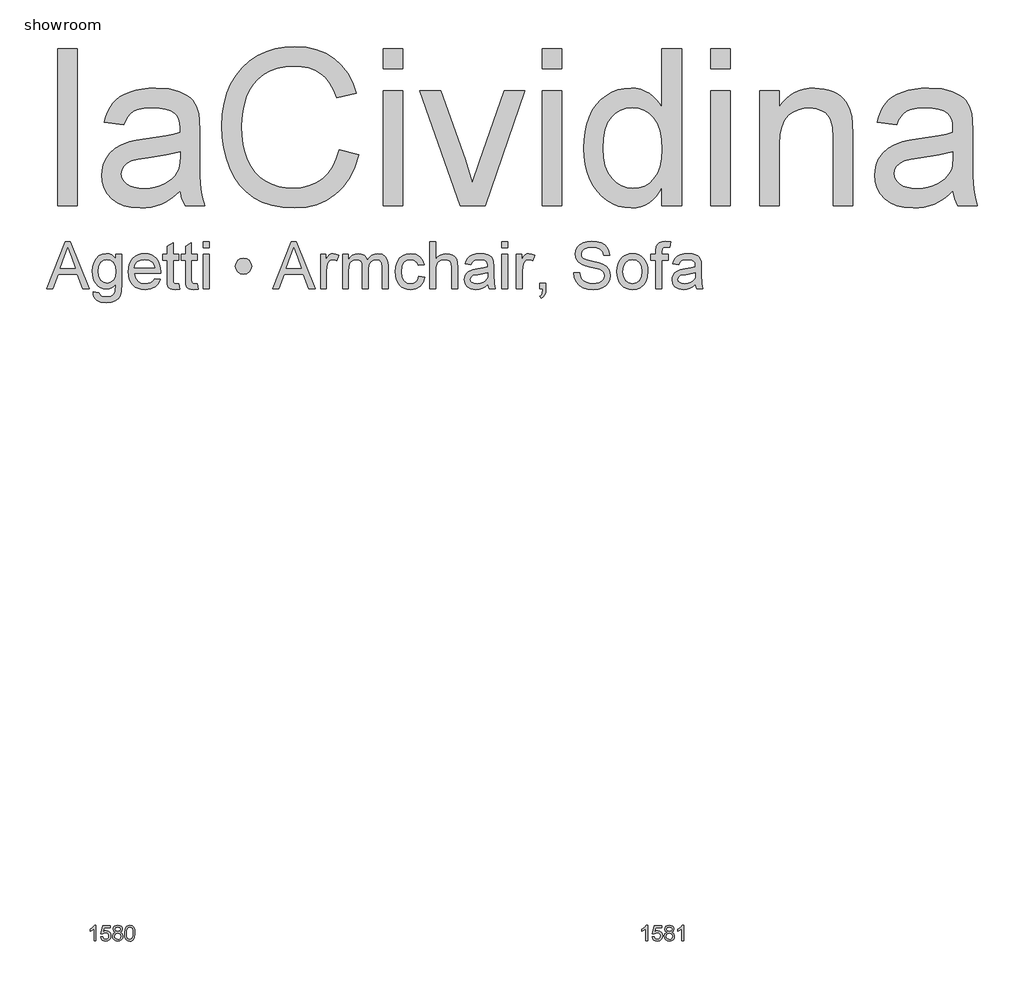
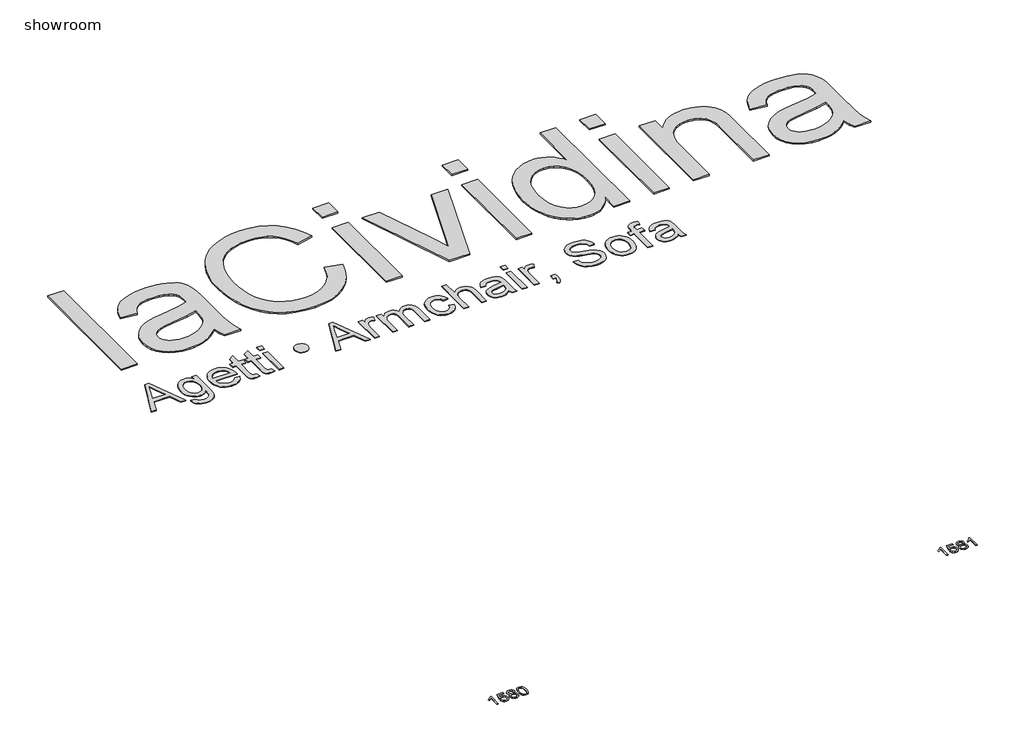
# One storey, incomplete: 4 proxies.
"""IFC4 building model written with IfcOpenShell, lengths in millimetres."""

from ifc_helpers import new_model, si_unit, origin, origin_with_axes, place, context, project, spatial, polyline, outline, extrude, element, save

model = new_model("IFC4")

# Units and contexts
model_context = context("Model", 3, world=origin())
ifc_project = project(units=[si_unit("LENGTHUNIT", "METRE", prefix="MILLI")], contexts=[model_context])

# Site, building, storey
site = spatial("IfcSite", under=ifc_project)
building = spatial("IfcBuilding", under=site)
storey = spatial("IfcBuildingStorey", under=building, Name="showroom", Elevation=0.0)

# Proxies
placement = place(None, origin())
element("IfcBuildingElementProxy", 1, Name="1000mm Arial", ObjectType="1000mm Arial", at=placement, inside=storey, context=model_context, shape_type="SweptSolid", body=[
    extrude(outline(polyline([(-1952.8965336, 4695.1020807), (-1952.8965336, 5699.6651822), (-1827.326146, 5699.6651822), (-1827.326146, 4695.1020807), (-1952.8965336, 4695.1020807)])), origin_with_axes(), (0.0, 0.0, 1.0), 10.0),
    extrude(outline(polyline([(-1168.0816106, 4789.2798714), (-1197.8570596, 4761.3361682), (-1228.0770326, 4737.8377058), (-1258.7415298, 4718.7844841), (-1289.850551, 4704.1765032), (-1321.7566499, 4693.3393128), (-1354.81238, 4685.5984625), (-1389.0177413, 4680.9539523), (-1424.3727339, 4679.4057822), (-1480.283133, 4683.1305874), (-1529.311073, 4694.305003), (-1571.4565541, 4712.929029), (-1606.7195762, 4739.0026654), (-1634.5636447, 4770.8704433), (-1654.4522651, 4806.8768935), (-1666.3854373, 4847.0220163), (-1670.3631613, 4891.3058114), (-1664.3544221, 4943.3611138), (-1656.843498, 4967.5953402), (-1646.3282043, 4990.6339501), (-1618.5224569, 5031.1009696), (-1583.1751285, 5062.7388212), (-1541.6351199, 5086.6511509), (-1495.2513316, 5103.9416046), (-1450.0631599, 5113.5678502), (-1386.6035157, 5122.8262137), (-1258.2126994, 5142.6918415), (-1208.6406006, 5153.9122423), (-1168.8173746, 5165.9910345), (-1168.0816106, 5193.9500661), (-1170.2429173, 5224.3923012), (-1176.7268375, 5249.9907567), (-1187.5333711, 5270.7454326), (-1202.6625181, 5286.6563289), (-1228.8127966, 5302.5365684), (-1260.665246, 5313.8795966), (-1298.2198664, 5320.6854135), (-1341.4766577, 5322.9540191), (-1381.6984225, 5321.4441701), (-1416.27933, 5316.914623), (-1445.2193803, 5309.3653779), (-1468.5185733, 5298.7964348), (-1487.6637655, 5284.3800591), (-1504.1418132, 5265.2885164), (-1517.9527164, 5241.5218066), (-1529.0964752, 5213.0799299), (-1654.6668629, 5228.7762283), (-1645.1095952, 5264.9512912), (-1632.8698547, 5297.4475341), (-1617.9476412, 5326.2649571), (-1600.3429549, 5351.4035601), (-1579.2970391, 5373.3691809), (-1554.0511372, 5392.6676572), (-1524.6052492, 5409.2989891), (-1490.959375, 5423.2631765), (-1453.7956293, 5434.3149647), (-1413.7961265, 5442.2090992), (-1370.9608667, 5446.9455799), (-1325.2898499, 5448.5244068), (-1240.4010795, 5442.9448632), (-1204.5555776, 5435.9704337), (-1173.1093312, 5426.2062324), (-1122.3722727, 5401.0369726), (-1102.8208775, 5386.3140286), (-1087.1475717, 5370.1655418), (-1063.787065, 5331.9977848), (-1048.6425895, 5284.9395463), (-1044.0440646, 5241.5294708), (-1042.5112229, 5175.065457), (-1042.5112229, 5018.8382364), (-1040.9170676, 4882.752555), (-1036.1346017, 4800.6842133), (-1026.6922971, 4746.7588442), (-1011.118626, 4695.1020807), (-1136.6890137, 4695.1020807), (-1156.7998961, 4738.7574108), (-1168.0816106, 4789.2798714)]), holes=[polyline([(-1168.0816106, 5040.4206468), (-1252.4492148, 5019.5126868), (-1370.6619626, 5001.9156646), (-1435.8077326, 4992.2894191), (-1478.6966419, 4981.5595276), (-1506.8089577, 4967.6413254), (-1527.6249472, 4948.450148), (-1540.500817, 4925.4575233), (-1544.7927737, 4900.1349793), (-1542.4551901, 4880.6219052), (-1535.4424396, 4862.7949568), (-1523.7545221, 4846.6541343), (-1507.3914375, 4832.1994375), (-1486.50647, 4820.2892579), (-1461.2529039, 4811.7819868), (-1431.6307391, 4806.6776241), (-1397.6399756, 4804.9761699), (-1362.9364407, 4806.8539009), (-1330.1949431, 4812.487094), (-1299.4154829, 4821.8757491), (-1270.5980599, 4835.0198662), (-1244.6010656, 4850.8311278), (-1222.2828912, 4868.2212162), (-1203.6435368, 4887.1901316), (-1188.6830023, 4907.7378739), (-1179.9917902, 4926.1319736), (-1173.7837815, 4948.450148), (-1168.8173746, 5004.8587206), (-1168.0816106, 5040.4206468)])]), origin_with_axes(), (0.0, 0.0, 1.0), 10.0),
    extrude(outline(polyline([(-147.8222106, 5052.1928707), (-22.2518229, 5019.8192551), (-47.099186, 4941.7286374), (-80.1932372, 4873.4941915), (-121.5339764, 4815.1159174), (-145.296854, 4789.6228448), (-171.1214037, 4766.5938151), (-227.8365446, 4728.4490507), (-290.5604248, 4701.2027904), (-359.2930442, 4684.8550343), (-434.0344029, 4679.4057822), (-510.6075073, 4683.5291262), (-579.6850161, 4695.8991583), (-641.2669293, 4716.5158785), (-695.3532468, 4745.3792867), (-742.6873968, 4782.0601873), (-784.0128076, 4826.1293846), (-819.3294792, 4877.5868787), (-848.6374114, 4936.4326695), (-871.6530288, 5000.1222399), (-888.0927554, 5066.1110728), (-897.9565914, 5134.3991682), (-901.2445368, 5204.986526), (-897.5273958, 5280.7242317), (-886.3759728, 5351.4648737), (-867.7902678, 5417.208452), (-841.7702809, 5477.9549664), (-808.8984918, 5532.7004058), (-769.7573803, 5580.4407589), (-724.3469465, 5621.1760257), (-672.6671904, 5654.9062061), (-616.4732157, 5681.3553887), (-557.5201259, 5700.247662), (-495.8079212, 5711.583026), (-431.3366016, 5715.3614806), (-359.5153062, 5710.4717158), (-293.6567649, 5695.8024212), (-233.7609776, 5671.353597), (-179.8279442, 5637.125243), (-132.746713, 5594.0217359), (-93.4063322, 5542.9474522), (-61.8068016, 5483.902392), (-37.9481214, 5416.8865552), (-163.5185091, 5386.9654863), (-183.2921663, 5436.3459799), (-207.0512119, 5478.5374462), (-234.7956457, 5513.5398852), (-266.5254677, 5541.3532969), (-302.4246191, 5562.5448327), (-342.6770407, 5577.6816439), (-387.2827327, 5586.7637307), (-436.2416949, 5589.7910929), (-492.5736254, 5586.4341697), (-544.0924331, 5576.3634001), (-590.7981181, 5559.5787841), (-632.6906803, 5536.0803216), (-669.2412893, 5506.9256735), (-699.9211149, 5473.1725005), (-724.7301569, 5434.8208025), (-743.6684155, 5391.8705795), (-757.6709239, 5346.2685406), (-767.6727157, 5299.9613944), (-773.6737907, 5252.9491411), (-775.6741491, 5205.2317807), (-773.3059087, 5145.2670154), (-766.2011877, 5089.2263248), (-754.359986, 5037.1097089), (-737.7823036, 4988.9171675), (-716.1998932, 4945.6067268), (-689.3445075, 4908.1364127), (-657.2161466, 4876.5062253), (-619.8148104, 4850.7161646), (-578.9569164, 4830.7049169), (-536.4588817, 4816.4111686), (-492.3207065, 4807.8349196), (-446.5423907, 4804.9761699), (-391.9502355, 4808.8695877), (-341.7266789, 4820.549841), (-295.8717211, 4840.0169299), (-254.3853619, 4867.2708544), (-218.2486201, 4902.1889871), (-188.4425143, 4944.6487007), (-164.9670445, 4994.6499952), (-147.8222106, 5052.1928707)])), origin_with_axes(), (0.0, 0.0, 1.0), 10.0),
    extrude(outline(polyline([(134.7111617, 4695.1020807), (134.7111617, 5432.8281083), (260.2815493, 5432.8281083), (260.2815493, 4695.1020807), (134.7111617, 4695.1020807)])), origin_with_axes(), (0.0, 0.0, 1.0), 10.0),
    extrude(outline(polyline([(134.7111617, 5574.0947945), (134.7111617, 5699.6651822), (260.2815493, 5699.6651822), (260.2815493, 5574.0947945), (134.7111617, 5574.0947945)])), origin_with_axes(), (0.0, 0.0, 1.0), 10.0),
    extrude(outline(polyline([(629.6350725, 4695.1020807), (370.1556386, 5432.8281083), (503.0836662, 5432.8281083), (660.2919054, 4990.8792048), (707.6260555, 4842.2548787), (753.9791869, 4982.5405462), (912.1684448, 5432.8281083), (1045.0964724, 5432.8281083), (788.8053491, 4695.1020807), (629.6350725, 4695.1020807)])), origin_with_axes(), (0.0, 0.0, 1.0), 10.0),
    extrude(outline(polyline([(1154.9705616, 4695.1020807), (1154.9705616, 5432.8281083), (1280.5409493, 5432.8281083), (1280.5409493, 4695.1020807), (1154.9705616, 4695.1020807)])), origin_with_axes(), (0.0, 0.0, 1.0), 10.0),
    extrude(outline(polyline([(1154.9705616, 5574.0947945), (1154.9705616, 5699.6651822), (1280.5409493, 5699.6651822), (1280.5409493, 5574.0947945), (1154.9705616, 5574.0947945)])), origin_with_axes(), (0.0, 0.0, 1.0), 10.0),
    extrude(outline(polyline([(1924.0891862, 4695.1020807), (1924.0891862, 4813.5600831), (1906.2967268, 4782.1176688), (1886.5192374, 4754.8675765), (1864.7567182, 4731.809806), (1841.009169, 4712.9443574), (1815.2765898, 4698.2712308), (1787.5589807, 4687.790426), (1757.8563417, 4681.5019432), (1726.1686728, 4679.4057822), (1684.7206347, 4682.4408087), (1644.9893792, 4691.5458881), (1606.9749064, 4706.7210204), (1570.6772162, 4727.9662056), (1537.2306114, 4754.6453144), (1507.769395, 4786.1222176), (1482.2935668, 4822.3969152), (1460.8031269, 4863.4694071), (1443.7425994, 4908.5579442), (1431.5565083, 4956.8807771), (1424.2448537, 5008.4379059), (1421.8076355, 5063.2293305), (1424.0532485, 5117.0167439), (1430.7900875, 5168.2596401), (1442.0181526, 5216.9580192), (1457.7374436, 5263.1118812), (1477.9402965, 5305.3723254), (1502.6190471, 5342.3904512), (1531.7736952, 5374.1662585), (1565.4042409, 5400.6997474), (1602.322732, 5421.6230359), (1641.3412161, 5436.568242), (1682.4596932, 5445.5353656), (1725.6781635, 5448.5244068), (1757.2853582, 5446.3860927), (1787.1144567, 5439.9711504), (1815.1654588, 5429.2795799), (1841.4383646, 5414.3113812), (1865.6419342, 5395.9249457), (1887.4849277, 5374.9786646), (1906.967345, 5351.4725379), (1924.0891862, 5325.4065657), (1924.0891862, 5699.6651822), (2049.6595739, 5699.6651822), (2049.6595739, 4695.1020807), (1924.0891862, 4695.1020807)]), holes=[polyline([(1547.3780231, 5063.7198398), (1550.9188873, 5002.8277054), (1561.54148, 4950.1362738), (1579.245801, 4905.645545), (1604.0318504, 4869.3555191), (1633.6310226, 4841.1895538), (1665.7747119, 4821.0710072), (1700.4629184, 4808.9998792), (1737.695642, 4804.9761699), (1775.1046424, 4808.8159382), (1809.5859152, 4820.3352432), (1841.1394605, 4839.5340848), (1869.7652782, 4866.4124631), (1893.531988, 4901.1849758), (1910.5082092, 4944.0662209), (1920.693942, 4995.0561983), (1924.0891862, 5054.154908), (1920.6326283, 5118.9481244), (1910.2629545, 5174.5136341), (1892.980165, 5220.851437), (1868.7842596, 5257.9615333), (1839.5299768, 5286.3957458), (1807.0720549, 5306.7058977), (1771.410494, 5318.8919887), (1732.545294, 5322.9540191), (1694.5768065, 5319.0529371), (1659.8886, 5307.3496911), (1628.4806747, 5287.8442812), (1600.3530304, 5260.5367073), (1577.1764647, 5224.8291611), (1560.621775, 5180.1238345), (1550.6889611, 5126.4207274), (1547.3780231, 5063.7198398)])]), origin_with_axes(), (0.0, 0.0, 1.0), 10.0),
    extrude(outline(polyline([(2238.0151554, 4695.1020807), (2238.0151554, 5432.8281083), (2363.5855431, 5432.8281083), (2363.5855431, 4695.1020807), (2238.0151554, 4695.1020807)])), origin_with_axes(), (0.0, 0.0, 1.0), 10.0),
    extrude(outline(polyline([(2238.0151554, 5574.0947945), (2238.0151554, 5699.6651822), (2363.5855431, 5699.6651822), (2363.5855431, 5574.0947945), (2238.0151554, 5574.0947945)])), origin_with_axes(), (0.0, 0.0, 1.0), 10.0),
    extrude(outline(polyline([(2551.9411246, 4695.1020807), (2551.9411246, 5432.8281083), (2677.5115123, 5432.8281083), (2677.5115123, 5329.8211497), (2698.2278672, 5357.6422256), (2721.1361856, 5381.7538247), (2746.2364675, 5402.155947), (2773.5287131, 5418.8485925), (2803.0129221, 5431.8317613), (2834.6890948, 5441.1054532), (2868.5572309, 5446.6696684), (2904.6173307, 5448.5244068), (2966.5134764, 5442.5463244), (2995.5071761, 5435.0737213), (3023.1979605, 5424.6120771), (3048.5358329, 5411.7208789), (3070.4707968, 5396.9596138), (3089.0028523, 5380.3282819), (3104.1319994, 5361.8268833), (3126.9713399, 5319.305856), (3141.7785902, 5269.4885025), (3146.7449972, 5221.8477841), (3148.4004661, 5148.0874441), (3148.4004661, 4695.1020807), (3022.8300785, 4695.1020807), (3022.8300785, 5131.1648723), (3019.2125722, 5196.0960444), (3008.3600533, 5242.2652348), (2999.7378191, 5259.7319654), (2988.3411414, 5275.3439576), (2974.1700204, 5289.1012113), (2957.224456, 5301.0037267), (2917.3399163, 5317.466446), (2871.0174418, 5322.9540191), (2832.8880058, 5319.8730074), (2797.4716996, 5310.6299723), (2764.7685231, 5295.2249137), (2734.7784762, 5273.6578318), (2709.7241795, 5243.4761797), (2691.8282533, 5202.227411), (2681.0906976, 5149.9115256), (2677.5115123, 5086.5285235), (2677.5115123, 4695.1020807), (2551.9411246, 4695.1020807)])), origin_with_axes(), (0.0, 0.0, 1.0), 10.0),
    extrude(outline(polyline([(3791.948703, 4789.2798714), (3762.1732541, 4761.3361682), (3731.953281, 4737.8377058), (3701.2887839, 4718.7844841), (3670.1797626, 4704.1765032), (3638.2736638, 4693.3393128), (3605.2179337, 4685.5984625), (3571.0125723, 4680.9539523), (3535.6575797, 4679.4057822), (3479.7471807, 4683.1305874), (3430.7192406, 4694.305003), (3388.5737595, 4712.929029), (3353.3107375, 4739.0026654), (3325.466669, 4770.8704433), (3305.5780486, 4806.8768935), (3293.6448764, 4847.0220163), (3289.6671523, 4891.3058114), (3295.6758915, 4943.3611138), (3303.1868156, 4967.5953402), (3313.7021093, 4990.6339501), (3341.5078568, 5031.1009696), (3376.8551852, 5062.7388212), (3418.3951938, 5086.6511509), (3464.778982, 5103.9416046), (3509.9671537, 5113.5678502), (3573.4267979, 5122.8262137), (3701.8176142, 5142.6918415), (3751.3897131, 5153.9122423), (3791.2129391, 5165.9910345), (3791.948703, 5193.9500661), (3789.7873963, 5224.3923012), (3783.3034762, 5249.9907567), (3772.4969425, 5270.7454326), (3757.3677955, 5286.6563289), (3731.217517, 5302.5365684), (3699.3650676, 5313.8795966), (3661.8104472, 5320.6854135), (3618.553656, 5322.9540191), (3578.3318912, 5321.4441701), (3543.7509836, 5316.914623), (3514.8109333, 5309.3653779), (3491.5117403, 5298.7964348), (3472.3665481, 5284.3800591), (3455.8885004, 5265.2885164), (3442.0775972, 5241.5218066), (3430.9338384, 5213.0799299), (3305.3634508, 5228.7762283), (3314.9207184, 5264.9512912), (3327.160459, 5297.4475341), (3342.0826724, 5326.2649571), (3359.6873587, 5351.4035601), (3380.7332745, 5373.3691809), (3405.9791764, 5392.6676572), (3435.4250645, 5409.2989891), (3469.0709386, 5423.2631765), (3506.2346843, 5434.3149647), (3546.2341871, 5442.2090992), (3589.0694469, 5446.9455799), (3634.7404638, 5448.5244068), (3719.6292342, 5442.9448632), (3755.4747361, 5435.9704337), (3786.9209824, 5426.2062324), (3837.6580409, 5401.0369726), (3857.2094361, 5386.3140286), (3872.882742, 5370.1655418), (3896.2432487, 5331.9977848), (3911.3877241, 5284.9395463), (3915.9862491, 5241.5294708), (3917.5190907, 5175.065457), (3917.5190907, 5018.8382364), (3919.113246, 4882.752555), (3923.895712, 4800.6842133), (3933.3380165, 4746.7588442), (3948.9116877, 4695.1020807), (3823.3413, 4695.1020807), (3803.2304176, 4738.7574108), (3791.948703, 4789.2798714)]), holes=[polyline([(3791.948703, 5040.4206468), (3707.5810988, 5019.5126868), (3589.368351, 5001.9156646), (3524.2225811, 4992.2894191), (3481.3336718, 4981.5595276), (3453.221356, 4967.6413254), (3432.4053664, 4948.450148), (3419.5294966, 4925.4575233), (3415.23754, 4900.1349793), (3417.5751235, 4880.6219052), (3424.587874, 4862.7949568), (3436.2757916, 4846.6541343), (3452.6388762, 4832.1994375), (3473.5238436, 4820.2892579), (3498.7774097, 4811.7819868), (3528.3995745, 4806.6776241), (3562.3903381, 4804.9761699), (3597.0938729, 4806.8539009), (3629.8353705, 4812.487094), (3660.6148308, 4821.8757491), (3689.4322537, 4835.0198662), (3715.429248, 4850.8311278), (3737.7474224, 4868.2212162), (3756.3867768, 4887.1901316), (3771.3473113, 4907.7378739), (3780.0385234, 4926.1319736), (3786.2465321, 4948.450148), (3791.2129391, 5004.8587206), (3791.948703, 5040.4206468)])]), origin_with_axes(), (0.0, 0.0, 1.0), 10.0),
])
element("IfcBuildingElementProxy", 2, Name="100mm Arial", ObjectType="100mm Arial", at=placement, inside=storey, context=model_context, shape_type="SweptSolid", body=[
    extrude(outline(polyline([(-1708.1109609, -24.8979193), (-1720.6679996, -24.8979193), (-1720.6679996, 53.3873692), (-1732.5628508, 44.9138206), (-1745.7820772, 38.5739876), (-1745.7820772, 50.4443133), (-1727.3757147, 62.1920117), (-1716.2043648, 75.5583908), (-1708.1109609, 75.5583908), (-1708.1109609, -24.8979193)])), origin_with_axes(), (0.0, 0.0, 1.0), 2.0),
    extrude(outline(polyline([(-1678.2879938, 1.7857881), (-1665.730955, 3.3554179), (-1659.4033847, -9.5817656), (-1646.2822602, -13.9105104), (-1637.2814141, -12.4052599), (-1630.5369108, -7.8895084), (-1626.324662, -0.8844221), (-1624.920579, 8.0888329), (-1630.1812916, 23.0003164), (-1636.7878391, 27.1022007), (-1646.0860565, 28.4694954), (-1657.1102536, 26.2867289), (-1664.1613252, 20.6213462), (-1676.718364, 22.1909761), (-1665.730955, 73.988761), (-1617.0724298, 73.988761), (-1617.0724298, 61.4317222), (-1655.577412, 61.4317222), (-1660.9730146, 33.7669962), (-1652.0028252, 39.2116497), (-1642.6034403, 41.0265342), (-1630.8680046, 38.7763227), (-1621.1191317, 32.0256881), (-1614.5524381, 21.7372549), (-1612.3635403, 8.8736478), (-1614.3317089, -3.6833909), (-1620.236215, -14.4255452), (-1631.5424549, -23.4570482), (-1646.3313112, -26.4675492), (-1658.664555, -24.533103), (-1668.49007, -18.7297645), (-1675.2253762, -9.7319841), (-1678.2879938, 1.7857881)])), origin_with_axes(), (0.0, 0.0, 1.0), 2.0),
    extrude(outline(polyline([(-1583.0801334, 30.4315327), (-1594.5212635, 38.230631), (-1598.2368716, 50.3707369), (-1596.2135207, 60.1870548), (-1590.1434678, 68.2988528), (-1580.7072946, 73.7435063), (-1568.5855828, 75.5583908), (-1556.3902947, 73.7005867), (-1546.8314942, 68.1271745), (-1540.6510767, 59.8866178), (-1538.5909375, 50.0273804), (-1542.2574947, 38.1938428), (-1553.3797937, 30.4315327), (-1540.0256773, 20.584558), (-1535.4516778, 4.3364366), (-1537.7202834, -7.6687792), (-1544.5261004, -17.5893304), (-1555.0352627, -24.2479945), (-1568.4139046, -26.4675492), (-1581.7925465, -24.2387974), (-1592.3017088, -17.5525422), (-1599.1075257, -7.5369548), (-1601.3761313, 4.6797931), (-1596.6181909, 21.3080593), (-1583.0801334, 30.4315327)]), holes=[polyline([(-1588.8190926, 5.1212515), (-1586.7221652, -4.3333158), (-1579.3032116, -11.4089128), (-1568.3158027, -13.9105104), (-1559.7686777, -12.5953323), (-1553.3552682, -8.6497979), (-1548.0087166, 4.728844), (-1553.5269465, 18.3650033), (-1560.0875087, 22.4117053), (-1568.7327356, 23.7606059), (-1577.160299, 22.4300994), (-1583.5093291, 18.4385797), (-1588.8190926, 5.1212515)]), polyline([(-1585.6798329, 50.0028549), (-1581.2284607, 40.1436174), (-1568.2667518, 36.3176447), (-1555.5625602, 40.119092), (-1551.1479763, 49.4387692), (-1555.709713, 59.0895402), (-1568.4139046, 63.0013521), (-1581.1548843, 59.1753793), (-1585.6798329, 50.0028549)])]), origin_with_axes(), (0.0, 0.0, 1.0), 2.0),
    extrude(outline(polyline([(-1524.4642689, 24.5208954), (-1520.7731862, 53.4241574), (-1509.8103027, 70.0892118), (-1491.5020421, 75.5583908), (-1476.8358132, 72.3210293), (-1466.7067956, 62.9890893), (-1460.8206837, 48.1266567), (-1458.5398153, 24.5208954), (-1462.1941098, -4.2597394), (-1473.1202051, -20.961582), (-1481.3515647, -25.0910574), (-1491.5020421, -26.4675492), (-1504.5495902, -24.0763162), (-1514.4578786, -16.9026173), (-1521.9626713, 0.0873995), (-1524.4642689, 24.5208954)]), holes=[polyline([(-1511.9072301, 24.5454208), (-1510.4357021, 4.7932234), (-1506.0211182, -6.6387096), (-1499.4482932, -12.0925602), (-1491.5020421, -13.9105104), (-1483.555791, -12.0864288), (-1476.982966, -6.6141842), (-1472.5683821, 4.8238802), (-1471.0968541, 24.5454208), (-1472.5193312, 43.8530942), (-1476.7867623, 55.373932), (-1483.3473246, 61.094497), (-1491.6491949, 63.0013521), (-1499.5096069, 61.3213576), (-1505.8249145, 56.2813743), (-1510.3866512, 44.0431666), (-1511.9072301, 24.5454208)])]), origin_with_axes(), (0.0, 0.0, 1.0), 2.0),
])
element("IfcBuildingElementProxy", 3, Name="100mm Arial", ObjectType="100mm Arial", at=placement, inside=storey, context=model_context, shape_type="SweptSolid", body=[
    extrude(outline(polyline([(1831.8890391, -24.8979193), (1819.3320004, -24.8979193), (1819.3320004, 53.3873692), (1807.4371492, 44.9138206), (1794.2179228, 38.5739876), (1794.2179228, 50.4443133), (1812.6242853, 62.1920117), (1823.7956352, 75.5583908), (1831.8890391, 75.5583908), (1831.8890391, -24.8979193)])), origin_with_axes(), (0.0, 0.0, 1.0), 2.0),
    extrude(outline(polyline([(1861.7120062, 1.7857881), (1874.269045, 3.3554179), (1880.5966153, -9.5817656), (1893.7177398, -13.9105104), (1902.7185859, -12.4052599), (1909.4630892, -7.8895084), (1913.675338, -0.8844221), (1915.079421, 8.0888329), (1909.8187084, 23.0003164), (1903.2121609, 27.1022007), (1893.9139435, 28.4694954), (1882.8897464, 26.2867289), (1875.8386748, 20.6213462), (1863.281636, 22.1909761), (1874.269045, 73.988761), (1922.9275702, 73.988761), (1922.9275702, 61.4317222), (1884.422588, 61.4317222), (1879.0269854, 33.7669962), (1887.9971748, 39.2116497), (1897.3965597, 41.0265342), (1909.1319954, 38.7763227), (1918.8808683, 32.0256881), (1925.4475619, 21.7372549), (1927.6364597, 8.8736478), (1925.6682911, -3.6833909), (1919.763785, -14.4255452), (1908.4575451, -23.4570482), (1893.6686888, -26.4675492), (1881.335445, -24.533103), (1871.50993, -18.7297645), (1864.7746238, -9.7319841), (1861.7120062, 1.7857881)])), origin_with_axes(), (0.0, 0.0, 1.0), 2.0),
    extrude(outline(polyline([(1956.9198666, 30.4315327), (1945.4787365, 38.230631), (1941.7631284, 50.3707369), (1943.7864793, 60.1870548), (1949.8565322, 68.2988528), (1959.2927054, 73.7435063), (1971.4144172, 75.5583908), (1983.6097053, 73.7005867), (1993.1685058, 68.1271745), (1999.3489233, 59.8866178), (2001.4090625, 50.0273804), (1997.7425053, 38.1938428), (1986.6202063, 30.4315327), (1999.9743227, 20.584558), (2004.5483222, 4.3364366), (2002.2797166, -7.6687792), (1995.4738996, -17.5893304), (1984.9647373, -24.2479945), (1971.5860954, -26.4675492), (1958.2074535, -24.2387974), (1947.6982912, -17.5525422), (1940.8924743, -7.5369548), (1938.6238687, 4.6797931), (1943.3818091, 21.3080593), (1956.9198666, 30.4315327)]), holes=[polyline([(1951.1809074, 5.1212515), (1953.2778348, -4.3333158), (1960.6967884, -11.4089128), (1971.6841973, -13.9105104), (1980.2313223, -12.5953323), (1986.6447318, -8.6497979), (1991.9912834, 4.728844), (1986.4730535, 18.3650033), (1979.9124913, 22.4117053), (1971.2672644, 23.7606059), (1962.839701, 22.4300994), (1956.4906709, 18.4385797), (1951.1809074, 5.1212515)]), polyline([(1954.3201671, 50.0028549), (1958.7715393, 40.1436174), (1971.7332482, 36.3176447), (1984.4374398, 40.119092), (1988.8520237, 49.4387692), (1984.290287, 59.0895402), (1971.5860954, 63.0013521), (1958.8451157, 59.1753793), (1954.3201671, 50.0028549)])]), origin_with_axes(), (0.0, 0.0, 1.0), 2.0),
    extrude(outline(polyline([(2062.6246265, -24.8979193), (2050.0675877, -24.8979193), (2050.0675877, 53.3873692), (2038.1727366, 44.9138206), (2024.9535102, 38.5739876), (2024.9535102, 50.4443133), (2043.3598727, 62.1920117), (2054.5312226, 75.5583908), (2062.6246265, 75.5583908), (2062.6246265, -24.8979193)])), origin_with_axes(), (0.0, 0.0, 1.0), 2.0),
])
element("IfcBuildingElementProxy", 4, Name="300mm Arial", ObjectType="300mm Arial", at=placement, inside=storey, context=model_context, shape_type="SweptSolid", body=[
    extrude(outline(polyline([(-2025.3844636, 4160.1020807), (-1905.0870512, 4461.4710111), (-1873.0077412, 4461.4710111), (-1752.7839051, 4160.1020807), (-1792.588737, 4160.1020807), (-1827.0224918, 4254.2798714), (-1951.2194533, 4254.2798714), (-1985.6532081, 4160.1020807), (-2025.3844636, 4160.1020807)]), holes=[polyline([(-1937.3870903, 4291.9509877), (-1840.7812784, 4291.9509877), (-1868.004546, 4366.0424216), (-1889.1209726, 4423.7998948), (-1907.8829543, 4372.5171447), (-1937.3870903, 4291.9509877)])]), origin_with_axes(), (0.0, 0.0, 1.0), 5.0),
    extrude(outline(polyline([(-1726.6642835, 4141.2665225), (-1688.9931672, 4136.557633), (-1684.8361006, 4124.7854091), (-1676.7794849, 4116.6920052), (-1660.9421651, 4110.4012231), (-1640.2120146, 4108.3042958), (-1618.1023067, 4110.6771346), (-1601.6579815, 4117.7956512), (-1590.2536397, 4129.1999931), (-1583.2638818, 4144.4303077), (-1580.6887078, 4188.3554179), (-1593.2242868, 4175.9945829), (-1607.2129997, 4167.165415), (-1622.6548464, 4161.8679142), (-1639.549827, 4160.1020807), (-1660.2041018, 4162.1576213), (-1678.3889687, 4168.3242433), (-1694.1044277, 4178.6019465), (-1707.3504787, 4192.990731), (-1717.8604075, 4210.2535937), (-1725.3674995, 4229.1535312), (-1729.8717546, 4249.6905435), (-1731.373173, 4271.8646308), (-1728.6784374, 4302.2792748), (-1720.5942306, 4330.2475034), (-1707.405661, 4353.948301), (-1689.3978374, 4371.5606515), (-1667.1869619, 4382.4867468), (-1641.389237, 4386.1287785), (-1623.772288, 4384.0686393), (-1607.7832168, 4377.8882218), (-1593.4220234, 4367.587526), (-1580.6887078, 4353.1665517), (-1580.6887078, 4381.419889), (-1543.0175915, 4381.419889), (-1543.0175915, 4190.3419807), (-1545.5927655, 4146.2237324), (-1553.3182874, 4117.1702518), (-1566.6264185, 4097.9024323), (-1585.9494203, 4083.1411673), (-1610.8642285, 4073.7601764), (-1640.9477786, 4070.6331794), (-1675.9977357, 4075.0385663), (-1703.5980824, 4088.254727), (-1713.993048, 4098.1760446), (-1721.3024034, 4110.3184497), (-1725.5261486, 4124.6819423), (-1726.6642835, 4141.2665225)]), holes=[polyline([(-1693.7020567, 4274.4398048), (-1689.6829459, 4239.8864884), (-1677.6256135, 4216.1305085), (-1659.4982282, 4202.3625249), (-1637.2689587, 4197.773197), (-1615.205236, 4202.3349337), (-1596.9858802, 4216.0201439), (-1584.7630009, 4239.4726211), (-1580.6887078, 4273.3361588), (-1584.8825626, 4305.9948829), (-1597.4641268, 4329.5117395), (-1615.950197, 4343.7211815), (-1637.8575699, 4348.4576622), (-1659.3694695, 4343.7947579), (-1677.4048843, 4329.806045), (-1689.6277636, 4306.6386764), (-1693.7020567, 4274.4398048)])]), origin_with_axes(), (0.0, 0.0, 1.0), 5.0),
    extrude(outline(polyline([(-1331.5590207, 4226.0265342), (-1294.6236684, 4221.3176447), (-1307.9317995, 4193.4873717), (-1329.1677877, 4172.6836449), (-1357.8533863, 4159.7158046), (-1393.5103487, 4155.3931911), (-1416.8846509, 4157.257893), (-1437.7113704, 4162.8519986), (-1455.990507, 4172.1755079), (-1471.7220608, 4185.2284209), (-1484.3726029, 4201.6474542), (-1493.4087045, 4221.0693243), (-1498.8303654, 4243.4940312), (-1500.6375857, 4268.9215748), (-1498.8119713, 4295.2113419), (-1493.3351281, 4318.3833091), (-1484.207056, 4338.4374764), (-1471.4277552, 4355.3738437), (-1455.7375881, 4368.8291277), (-1437.8769173, 4378.4400448), (-1417.8457426, 4384.2065951), (-1395.6440642, 4386.1287785), (-1374.1574565, 4384.2111936), (-1354.7263893, 4378.4584389), (-1337.3508628, 4368.8705144), (-1322.030877, 4355.4474201), (-1309.5251884, 4338.547841), (-1300.5925537, 4318.5304619), (-1295.2329729, 4295.3952829), (-1293.446446, 4269.142304), (-1293.6671752, 4258.988761), (-1462.9664693, 4258.988761), (-1456.445761, 4230.790606), (-1441.2982198, 4210.0604556), (-1419.4368323, 4197.3133445), (-1392.7745847, 4193.0643074), (-1372.7250159, 4195.0324761), (-1355.8392324, 4200.9369821), (-1342.1172339, 4211.1457075), (-1331.5590207, 4226.0265342)]), holes=[polyline([(-1462.9664693, 4296.6598773), (-1331.1175623, 4296.6598773), (-1336.2127279, 4316.5622932), (-1346.2007241, 4330.7993264), (-1368.1632792, 4344.0430783), (-1395.791217, 4348.4576622), (-1421.1842717, 4344.9351921), (-1442.1811366, 4334.3677818), (-1456.7768548, 4317.8958655), (-1462.9664693, 4296.6598773)])]), origin_with_axes(), (0.0, 0.0, 1.0), 5.0),
    extrude(outline(polyline([(-1175.7242075, 4191.5192031), (-1171.015318, 4158.9984347), (-1199.1950788, 4155.3931911), (-1217.2764789, 4156.9566896), (-1230.759354, 4161.6471851), (-1240.2874977, 4168.8760663), (-1246.5047034, 4178.054722), (-1249.9260059, 4193.8184655), (-1251.0664401, 4220.8026099), (-1251.0664401, 4343.7487727), (-1279.3197774, 4343.7487727), (-1279.3197774, 4381.419889), (-1251.0664401, 4381.419889), (-1251.0664401, 4435.2042367), (-1213.3953238, 4457.3507328), (-1213.3953238, 4381.419889), (-1175.7242075, 4381.419889), (-1175.7242075, 4343.7487727), (-1213.3953238, 4343.7487727), (-1213.3953238, 4221.9062559), (-1211.408761, 4202.4820865), (-1204.9708261, 4195.6026932), (-1192.1317445, 4193.0643074), (-1175.7242075, 4191.5192031)])), origin_with_axes(), (0.0, 0.0, 1.0), 5.0),
    extrude(outline(polyline([(-1058.0019691, 4191.5192031), (-1053.2930795, 4158.9984347), (-1081.4728404, 4155.3931911), (-1099.5542404, 4156.9566896), (-1113.0371155, 4161.6471851), (-1122.5652592, 4168.8760663), (-1128.7824649, 4178.054722), (-1132.2037675, 4193.8184655), (-1133.3442017, 4220.8026099), (-1133.3442017, 4343.7487727), (-1161.5975389, 4343.7487727), (-1161.5975389, 4381.419889), (-1133.3442017, 4381.419889), (-1133.3442017, 4435.2042367), (-1095.6730854, 4457.3507328), (-1095.6730854, 4381.419889), (-1058.0019691, 4381.419889), (-1058.0019691, 4343.7487727), (-1095.6730854, 4343.7487727), (-1095.6730854, 4221.9062559), (-1093.6865226, 4202.4820865), (-1087.2485877, 4195.6026932), (-1074.409506, 4193.0643074), (-1058.0019691, 4191.5192031)])), origin_with_axes(), (0.0, 0.0, 1.0), 5.0),
    extrude(outline(polyline([(-1020.3308528, 4160.1020807), (-1020.3308528, 4381.419889), (-982.6597364, 4381.419889), (-982.6597364, 4160.1020807), (-1020.3308528, 4160.1020807)])), origin_with_axes(), (0.0, 0.0, 1.0), 5.0),
    extrude(outline(polyline([(-1020.3308528, 4423.7998948), (-1020.3308528, 4461.4710111), (-982.6597364, 4461.4710111), (-982.6597364, 4423.7998948), (-1020.3308528, 4423.7998948)])), origin_with_axes(), (0.0, 0.0, 1.0), 5.0),
    extrude(outline(polyline([(-813.1397131, 4306.1512328), (-809.3321344, 4326.0444516), (-797.9093985, 4342.7554913), (-781.1707677, 4354.0954538), (-761.4155045, 4357.8754413), (-741.5498768, 4354.0954538), (-724.7744578, 4342.7554913), (-713.3517219, 4326.0444516), (-709.5441432, 4306.1512328), (-713.3517219, 4286.285605), (-724.7744578, 4269.510186), (-741.5498768, 4258.0874501), (-761.4155045, 4254.2798714), (-781.1707677, 4258.0874501), (-797.9093985, 4269.510186), (-809.3321344, 4286.285605), (-813.1397131, 4306.1512328)])), origin_with_axes(), (0.0, 0.0, 1.0), 5.0),
    extrude(outline(polyline([(-575.0464858, 4160.1020807), (-454.7490734, 4461.4710111), (-422.6697634, 4461.4710111), (-302.4459274, 4160.1020807), (-342.2507592, 4160.1020807), (-376.684514, 4254.2798714), (-500.8814756, 4254.2798714), (-535.3152303, 4160.1020807), (-575.0464858, 4160.1020807)]), holes=[polyline([(-487.0491125, 4291.9509877), (-390.4433006, 4291.9509877), (-417.6665683, 4366.0424216), (-438.7829948, 4423.7998948), (-457.5449765, 4372.5171447), (-487.0491125, 4291.9509877)])]), origin_with_axes(), (0.0, 0.0, 1.0), 5.0),
    extrude(outline(polyline([(-266.9085266, 4160.1020807), (-266.9085266, 4381.419889), (-233.9462999, 4381.419889), (-233.9462999, 4348.6783914), (-221.7694058, 4367.6611024), (-210.549005, 4378.844715), (-199.2918159, 4384.3077626), (-187.0045573, 4386.1287785), (-168.2425755, 4383.2225107), (-149.1862882, 4374.5037075), (-161.7678524, 4340.7321403), (-175.0116042, 4346.5262817), (-188.2553561, 4348.4576622), (-199.5033481, 4346.5998581), (-209.5557236, 4341.0264459), (-217.6767186, 4332.1604898), (-223.1305692, 4320.4250542), (-227.7107, 4299.382204), (-229.2374103, 4276.4263675), (-229.2374103, 4160.1020807), (-266.9085266, 4160.1020807)])), origin_with_axes(), (0.0, 0.0, 1.0), 5.0),
    extrude(outline(polyline([(-125.6418405, 4160.1020807), (-125.6418405, 4381.419889), (-87.9707242, 4381.419889), (-87.9707242, 4344.9995714), (-76.6399587, 4361.7290052), (-62.0718317, 4374.8348013), (-44.7629838, 4383.3052842), (-25.2100558, 4386.1287785), (-4.2591762, 4383.2501019), (12.5346369, 4374.6140721), (25.0794129, 4360.7909061), (33.2831814, 4342.3508211), (47.0143769, 4361.5036775), (62.6769528, 4375.1842892), (80.2709093, 4383.3926562), (99.7962462, 4386.1287785), (128.1139627, 4381.5762388), (149.0556453, 4367.9186197), (161.9958945, 4344.7880393), (166.3093109, 4311.8166155), (166.3093109, 4160.1020807), (128.6381946, 4160.1020807), (128.6381946, 4295.6298077), (125.1433156, 4327.0837183), (120.232091, 4335.7565363), (112.488175, 4342.5715503), (102.52777, 4346.9861342), (90.9670783, 4348.4576622), (70.5588246, 4344.6868718), (53.9213614, 4333.3745004), (42.8573104, 4313.747996), (39.1692934, 4285.0348062), (39.1692934, 4160.1020807), (1.4981771, 4160.1020807), (1.4981771, 4299.8236624), (-0.6815238, 4321.12403), (-7.2206262, 4336.3175564), (-18.7261356, 4345.4226357), (-35.8050573, 4348.4576622), (-50.318002, 4346.4343112), (-63.6905125, 4340.3642583), (-74.7269724, 4330.3946562), (-82.2317651, 4316.6726578), (-86.5359844, 4297.6347646), (-87.9707242, 4271.717478), (-87.9707242, 4160.1020807), (-125.6418405, 4160.1020807)])), origin_with_axes(), (0.0, 0.0, 1.0), 5.0),
    extrude(outline(polyline([(364.0826715, 4240.1532028), (401.7537878, 4235.4443133), (391.2507568, 4201.9394606), (371.5138878, 4176.6199823), (344.4009848, 4160.6998889), (311.7698518, 4155.3931911), (290.6419289, 4157.2440974), (271.6983055, 4162.7968163), (254.9389813, 4172.0513477), (240.3639565, 4185.0076917), (228.5664408, 4201.4221265), (220.1396438, 4221.0509302), (215.0835657, 4243.8941029), (213.3982063, 4269.9516444), (216.2768829, 4303.4748912), (224.9129127, 4332.5283718), (239.4442515, 4355.9900461), (260.0088551, 4372.7378739), (284.6109635, 4382.7810524), (311.254817, 4386.1287785), (343.0858066, 4381.5302536), (368.5340436, 4367.7346787), (386.7901876, 4345.477818), (397.0448983, 4315.4954354), (359.373782, 4310.7865459), (352.5403739, 4327.221674), (341.8993872, 4339.0030949), (328.039433, 4346.0940204), (311.5491226, 4348.4576622), (287.2045316, 4343.803955), (267.8815298, 4329.8428332), (255.2723744, 4305.820139), (251.0693226, 4270.981714), (255.1804039, 4235.6742395), (267.5136478, 4211.5687718), (286.4871617, 4197.6904235), (310.519053, 4193.0643074), (330.0259958, 4195.9521811), (346.0196655, 4204.6158021), (357.6539336, 4219.2758996), (364.0826715, 4240.1532028)])), origin_with_axes(), (0.0, 0.0, 1.0), 5.0),
    extrude(outline(polyline([(434.7160146, 4160.1020807), (434.7160146, 4461.4710111), (472.3871309, 4461.4710111), (472.3871309, 4350.6649542), (486.2240924, 4366.1803773), (501.7625082, 4377.2628224), (519.0023782, 4383.9122895), (537.9437024, 4386.1287785), (560.6972038, 4383.7099544), (580.2501319, 4376.453482), (595.6459934, 4364.9295785), (605.9282951, 4349.708461), (611.7224365, 4328.7943696), (613.653817, 4300.1915444), (613.653817, 4160.1020807), (575.9827007, 4160.1020807), (575.9827007, 4296.2919953), (572.9844625, 4319.8732312), (563.9897477, 4336.0232508), (549.4951971, 4345.3490593), (529.9974513, 4348.4576622), (514.077358, 4346.3607348), (499.1321519, 4340.0699527), (486.7529228, 4330.1923211), (478.5307602, 4317.3348454), (473.9230382, 4300.2467267), (472.3871309, 4277.6771663), (472.3871309, 4160.1020807), (434.7160146, 4160.1020807)])), origin_with_axes(), (0.0, 0.0, 1.0), 5.0),
    extrude(outline(polyline([(806.7182881, 4188.3554179), (788.7196615, 4172.9227682), (770.187606, 4162.8244074), (750.6990573, 4157.2509952), (729.8309511, 4155.3931911), (698.3494494, 4159.8629574), (675.1268984, 4173.2722561), (660.8070918, 4193.6345245), (656.0338229, 4218.9631999), (657.8364446, 4234.5797906), (663.24431, 4248.7616415), (671.5860342, 4260.9017474), (682.1902327, 4270.3931028), (708.5673718, 4282.7539379), (741.1617166, 4288.4193206), (779.6789614, 4294.3790089), (806.4975589, 4301.3687668), (806.7182881, 4309.7564763), (804.12472, 4326.5686835), (796.3440158, 4337.5683551), (778.9431975, 4345.7353354), (754.699774, 4348.4576622), (732.2589723, 4346.6458434), (716.5871993, 4341.2103869), (705.9002273, 4331.1580114), (698.4138287, 4315.4954354), (660.7427124, 4320.204325), (667.2818149, 4340.8057167), (677.0398848, 4356.9925245), (690.9274301, 4369.3717536), (709.8549588, 4378.5504094), (733.0039333, 4384.2341862), (759.5558163, 4386.1287785), (785.0224474, 4384.4549154), (805.2099719, 4379.4333262), (820.4310895, 4371.8825482), (830.9984998, 4362.621119), (838.0066518, 4351.1707919), (842.5499944, 4337.0533204), (844.3894044, 4304.0910936), (844.3894044, 4257.2229274), (846.3023908, 4191.7767205), (853.8071835, 4160.1020807), (816.1360672, 4160.1020807), (806.7182881, 4188.3554179)]), holes=[polyline([(806.7182881, 4263.6976505), (745.9441825, 4252.1461559), (713.5337787, 4246.0393147), (698.8552871, 4236.1065009), (693.7049392, 4221.6119503), (696.5100394, 4210.4099435), (704.92534, 4201.2312877), (718.7669001, 4195.1060525), (737.8507786, 4193.0643074), (758.0842883, 4195.3175847), (775.9633533, 4202.0774163), (790.4579039, 4212.0378213), (800.5378706, 4223.8928186), (805.0076368, 4236.1065009), (806.4975589, 4253.0290727), (806.7182881, 4263.6976505)])]), origin_with_axes(), (0.0, 0.0, 1.0), 5.0),
    extrude(outline(polyline([(896.1871893, 4160.1020807), (896.1871893, 4381.419889), (933.8583056, 4381.419889), (933.8583056, 4160.1020807), (896.1871893, 4160.1020807)])), origin_with_axes(), (0.0, 0.0, 1.0), 5.0),
    extrude(outline(polyline([(896.1871893, 4423.7998948), (896.1871893, 4461.4710111), (933.8583056, 4461.4710111), (933.8583056, 4423.7998948), (896.1871893, 4423.7998948)])), origin_with_axes(), (0.0, 0.0, 1.0), 5.0),
    extrude(outline(polyline([(990.3649801, 4160.1020807), (990.3649801, 4381.419889), (1023.3272069, 4381.419889), (1023.3272069, 4348.6783914), (1035.5041009, 4367.6611024), (1046.7245017, 4378.844715), (1057.9816908, 4384.3077626), (1070.2689494, 4386.1287785), (1089.0309312, 4383.2225107), (1108.0872185, 4374.5037075), (1095.5056543, 4340.7321403), (1082.2619025, 4346.5262817), (1069.0181507, 4348.4576622), (1057.7701587, 4346.5998581), (1047.7177831, 4341.0264459), (1039.5967881, 4332.1604898), (1034.1429375, 4320.4250542), (1029.5628067, 4299.382204), (1028.0360964, 4276.4263675), (1028.0360964, 4160.1020807), (990.3649801, 4160.1020807)])), origin_with_axes(), (0.0, 0.0, 1.0), 5.0),
    extrude(outline(polyline([(1141.0494453, 4160.1020807), (1141.0494453, 4197.773197), (1178.7205616, 4197.773197), (1178.7205616, 4160.1020807), (1177.0283044, 4138.5533928), (1171.9515329, 4121.5848358), (1163.1959414, 4108.5710102), (1150.4672244, 4098.8865167), (1141.0494453, 4113.0131853), (1149.2164256, 4119.8373963), (1154.8818083, 4129.2735695), (1159.8114271, 4160.1020807), (1141.0494453, 4160.1020807)])), origin_with_axes(), (0.0, 0.0, 1.0), 5.0),
    extrude(outline(polyline([(1357.6583641, 4263.6976505), (1395.3294804, 4263.6976505), (1399.6520938, 4242.7927561), (1407.4695862, 4225.989746), (1419.6648744, 4212.6540237), (1437.120875, 4202.1509927), (1458.4580307, 4195.3359788), (1482.296784, 4193.0643074), (1503.2844519, 4194.7841558), (1521.6601575, 4199.9437007), (1536.5501813, 4208.110681), (1547.0808034, 4218.8528353), (1553.3439944, 4231.1860792), (1555.4317247, 4244.1263284), (1553.8682262, 4256.7354838), (1549.1777308, 4267.6339879), (1539.6495871, 4276.9322053), (1523.5731439, 4284.7405006), (1468.7219384, 4299.1246866), (1432.7154881, 4308.6436333), (1409.6768782, 4317.7027274), (1390.9240935, 4330.3762621), (1377.6343564, 4345.7353354), (1369.7156965, 4363.4488535), (1367.0761431, 4383.1857225), (1370.3410959, 4405.2494452), (1380.135954, 4425.8232458), (1396.2032001, 4443.2608524), (1418.2853169, 4455.915993), (1444.7912146, 4463.6139237), (1474.1298037, 4466.1799007), (1505.9148081, 4463.4943621), (1533.726687, 4455.4377464), (1556.5721589, 4442.1756005), (1573.4579424, 4423.8734712), (1584.1449144, 4401.6717928), (1588.3939514, 4376.7109994), (1550.7228351, 4376.7109994), (1543.8066536, 4399.1885893), (1529.3856794, 4415.4121853), (1506.8529072, 4425.2346346), (1475.6013317, 4428.5087844), (1443.6139922, 4425.2714228), (1421.6698312, 4415.5593381), (1408.9779024, 4401.2671226), (1404.7472595, 4384.2893685), (1407.7454977, 4369.813212), (1416.7402125, 4358.1697469), (1438.0037918, 4347.7586864), (1478.2500821, 4337.1268968), (1519.7839593, 4327.028536), (1544.9102996, 4318.2177622), (1566.3854111, 4304.5509461), (1581.3674053, 4287.6835566), (1590.1689821, 4267.7995348), (1593.102841, 4245.0828216), (1589.7275237, 4221.8602706), (1579.6015718, 4200.0172771), (1563.1388525, 4181.2185072), (1540.7532331, 4167.1286268), (1513.8334681, 4158.32705), (1483.768312, 4155.3931911), (1446.8605509, 4158.5569763), (1416.4826951, 4168.0483318), (1392.2852569, 4183.9040458), (1373.9187483, 4206.1609065), (1362.1281303, 4233.2738095), (1357.6583641, 4263.6976505)])), origin_with_axes(), (0.0, 0.0, 1.0), 5.0),
    extrude(outline(polyline([(1635.4828468, 4270.7609848), (1637.5199934, 4299.4235908), (1643.631433, 4324.1222682), (1653.8171658, 4344.8570172), (1668.0771916, 4361.6278376), (1682.4337865, 4372.3469993), (1698.2803034, 4380.0035433), (1715.6167424, 4384.5974697), (1734.4431035, 4386.1287785), (1755.226137, 4384.2640766), (1774.0180092, 4378.6699711), (1790.81872, 4369.3464617), (1805.6282696, 4356.2935487), (1817.7154924, 4339.9526903), (1826.349223, 4320.765345), (1831.5294613, 4298.7315128), (1833.2562074, 4273.8511936), (1830.2027869, 4235.7938012), (1821.0425252, 4206.8230941), (1806.0421368, 4185.1272534), (1785.4683363, 4168.8944604), (1761.0317747, 4158.7685084), (1734.4431035, 4155.3931911), (1713.3565674, 4157.2509952), (1694.3899513, 4162.8244074), (1677.5432552, 4172.1134278), (1662.8164791, 4185.1180563), (1650.858015, 4201.6175638), (1642.3162549, 4221.3912211), (1637.1911988, 4244.4390281), (1635.4828468, 4270.7609848)]), holes=[polyline([(1673.1539631, 4270.8345612), (1677.5133648, 4236.7410973), (1690.5915697, 4212.4516886), (1710.2732564, 4197.9111527), (1734.4431035, 4193.0643074), (1758.502586, 4197.9387439), (1778.1474846, 4212.5620532), (1791.2256895, 4237.1733587), (1795.5850911, 4272.0117836), (1791.1980983, 4305.1119661), (1778.03712, 4329.0702811), (1758.3646303, 4343.6108169), (1734.4431035, 4348.4576622), (1710.2732564, 4343.629211), (1690.5915697, 4329.1438575), (1677.5133648, 4304.909631), (1673.1539631, 4270.8345612)])]), origin_with_axes(), (0.0, 0.0, 1.0), 5.0),
    extrude(outline(polyline([(1885.0539924, 4160.1020807), (1885.0539924, 4343.7487727), (1852.0917656, 4343.7487727), (1852.0917656, 4381.419889), (1885.0539924, 4381.419889), (1885.0539924, 4403.7135379), (1889.0271179, 4435.1306603), (1896.605487, 4447.6570422), (1908.3041345, 4457.571462), (1924.6748832, 4464.027791), (1946.2695564, 4466.1799007), (1980.6297347, 4462.0596223), (1975.1115048, 4426.7429508), (1953.4064671, 4428.5087844), (1939.0866604, 4426.9452859), (1929.6780784, 4422.2547904), (1924.4633511, 4413.2968639), (1922.7251087, 4398.9310719), (1922.7251087, 4381.419889), (1965.1051145, 4381.419889), (1965.1051145, 4343.7487727), (1922.7251087, 4343.7487727), (1922.7251087, 4160.1020807), (1885.0539924, 4160.1020807)])), origin_with_axes(), (0.0, 0.0, 1.0), 5.0),
    extrude(outline(polyline([(2139.3340274, 4188.3554179), (2121.3354008, 4172.9227682), (2102.8033453, 4162.8244074), (2083.3147966, 4157.2509952), (2062.4466904, 4155.3931911), (2030.9651887, 4159.8629574), (2007.7426377, 4173.2722561), (1993.4228311, 4193.6345245), (1988.6495622, 4218.9631999), (1990.452184, 4234.5797906), (1995.8600493, 4248.7616415), (2004.2017735, 4260.9017474), (2014.8059721, 4270.3931028), (2041.1831111, 4282.7539379), (2073.7774559, 4288.4193206), (2112.2947008, 4294.3790089), (2139.1132982, 4301.3687668), (2139.3340274, 4309.7564763), (2136.7404594, 4326.5686835), (2128.9597552, 4337.5683551), (2111.5589368, 4345.7353354), (2087.3155133, 4348.4576622), (2064.8747116, 4346.6458434), (2049.2029386, 4341.2103869), (2038.5159666, 4331.1580114), (2031.029568, 4315.4954354), (1993.3584517, 4320.204325), (1999.8975542, 4340.8057167), (2009.6556241, 4356.9925245), (2023.5431694, 4369.3717536), (2042.4706981, 4378.5504094), (2065.6196726, 4384.2341862), (2092.1715556, 4386.1287785), (2117.6381868, 4384.4549154), (2137.8257112, 4379.4333262), (2153.0468288, 4371.8825482), (2163.6142391, 4362.621119), (2170.6223911, 4351.1707919), (2175.1657338, 4337.0533204), (2177.0051437, 4304.0910936), (2177.0051437, 4257.2229274), (2178.9181301, 4191.7767205), (2186.4229228, 4160.1020807), (2148.7518065, 4160.1020807), (2139.3340274, 4188.3554179)]), holes=[polyline([(2139.3340274, 4263.6976505), (2078.5599218, 4252.1461559), (2046.149518, 4246.0393147), (2031.4710264, 4236.1065009), (2026.3206785, 4221.6119503), (2029.1257787, 4210.4099435), (2037.5410794, 4201.2312877), (2051.3826394, 4195.1060525), (2070.4665179, 4193.0643074), (2090.7000277, 4195.3175847), (2108.5790926, 4202.0774163), (2123.0736432, 4212.0378213), (2133.1536099, 4223.8928186), (2137.6233761, 4236.1065009), (2139.1132982, 4253.0290727), (2139.3340274, 4263.6976505)])]), origin_with_axes(), (0.0, 0.0, 1.0), 5.0),
])

save(model, "model.ifc")
